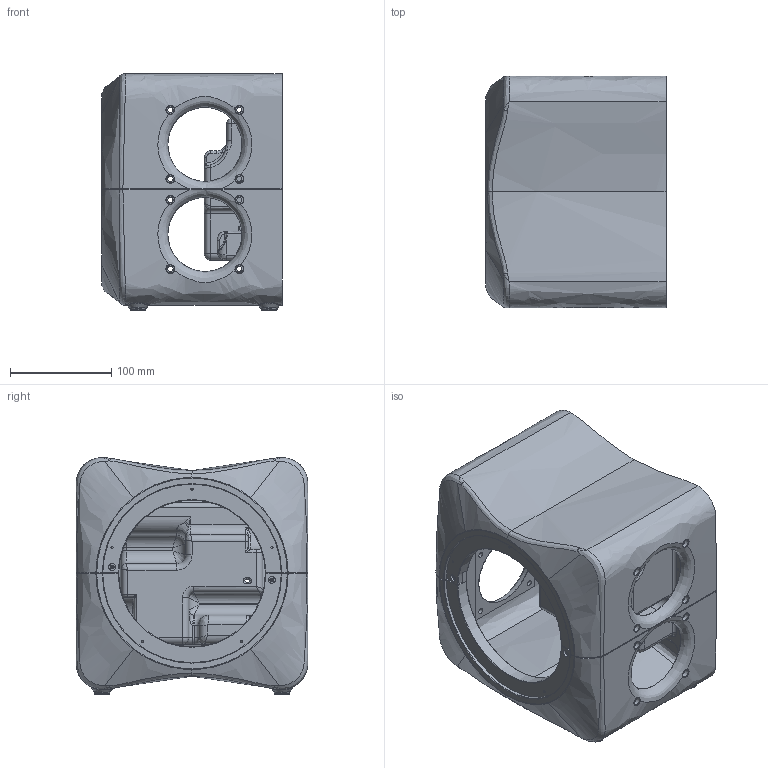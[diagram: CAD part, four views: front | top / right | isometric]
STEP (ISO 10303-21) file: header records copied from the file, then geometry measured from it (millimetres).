
FILE_DESCRIPTION(/* description */ (''),/* implementation_level */ '2;1');
FILE_NAME(/* name */ 'TB 4-Pack Enclosure- Top Bottom Amp Cover.step',/* time_stamp */ '2026-01-13T13:05:57-05:00',/* author */ (''),/* organization */ (''),/* preprocessor_version */ 'ST-DEVELOPER v20.1',/* originating_system */ 'Autodesk Translation Framework v14.21.0.0',/* authorisation */ '');
FILE_SCHEMA (('AUTOMOTIVE_DESIGN { 1 0 10303 214 3 1 1 }'));
Products named in the file (1): MicroSub Tang Band Buyouts and SA25
Bounding box: 177.8 x 228.6 x 233.68 mm (x, y, z)
Volume: 1946778.7 mm3; surface area: 510663.9 mm2
Topology: 3 solids, 3 shells, 1383 faces, 3625 edges, 2286 vertices
Faces by surface type: bspline 686, plane 315, cylinder 288, torus 80, sphere 11, cone 3
Full cylindrical faces by diameter (mm): 2.184 x19, 3.556 x14, 5.207 x16, 6.35 x4, 6.858 x10, 8.001 x16, 73.025 x4
Entity records: 83055 total; most frequent: CARTESIAN_POINT 53862, ORIENTED_EDGE 7168, DIRECTION 4077, EDGE_CURVE 3584, VERTEX_POINT 2286, B_SPLINE_CURVE_WITH_KNOTS 1625, EDGE_LOOP 1578, AXIS2_PLACEMENT_3D 1457
